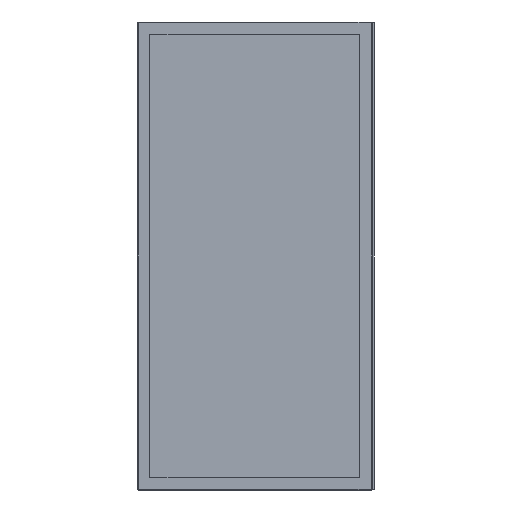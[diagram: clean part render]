
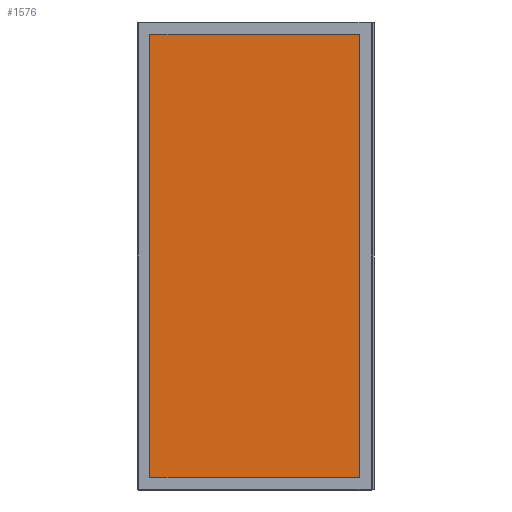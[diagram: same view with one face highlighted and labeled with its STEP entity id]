
A CAD part, front view. The second image highlights one B-rep face of the part: STEP entity #1576.
In plain terms, the highlighted planar face has unit normal (0, -1, 0).
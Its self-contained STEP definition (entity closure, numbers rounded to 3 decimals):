
#1576=ADVANCED_FACE('',(#5995),#5997,.F.);
#5995=FACE_BOUND('',#5996,.T.);
#5996=EDGE_LOOP('',(#8456,#8457,#8458,#8459));
#5997=PLANE('',#5998);
#5998=AXIS2_PLACEMENT_3D('',#5999,#6000,#6001);
#5999=CARTESIAN_POINT('',(0.,0.,0.));
#6000=DIRECTION('',(-0.,1.,0.));
#6001=DIRECTION('',(1.,0.,0.));
#8456=ORIENTED_EDGE('',*,*,#9582,.F.);
#8457=ORIENTED_EDGE('',*,*,#9579,.F.);
#8458=ORIENTED_EDGE('',*,*,#9576,.F.);
#8459=ORIENTED_EDGE('',*,*,#9572,.F.);
#9572=EDGE_CURVE('',#11148,#11149,#11150,.T.);
#9576=EDGE_CURVE('',#11149,#11156,#11157,.T.);
#9579=EDGE_CURVE('',#11156,#11161,#11162,.T.);
#9582=EDGE_CURVE('',#11161,#11148,#11166,.T.);
#11148=VERTEX_POINT('',#15124);
#11149=VERTEX_POINT('',#15125);
#11150=LINE('',#15126,#15127);
#11156=VERTEX_POINT('',#15140);
#11157=LINE('',#15141,#15142);
#11161=VERTEX_POINT('',#15151);
#11162=LINE('',#15152,#15153);
#11166=LINE('',#15162,#15163);
#15124=CARTESIAN_POINT('',(-584.,0.,283.));
#15125=CARTESIAN_POINT('',(584.,0.,283.));
#15126=CARTESIAN_POINT('',(-584.,0.,283.));
#15127=VECTOR('',#15128,1.);
#15128=DIRECTION('',(1.,0.,0.));
#15140=CARTESIAN_POINT('',(584.,0.,-283.));
#15141=CARTESIAN_POINT('',(584.,0.,283.));
#15142=VECTOR('',#15143,1.);
#15143=DIRECTION('',(0.,0.,-1.));
#15151=CARTESIAN_POINT('',(-584.,0.,-283.));
#15152=CARTESIAN_POINT('',(584.,0.,-283.));
#15153=VECTOR('',#15154,1.);
#15154=DIRECTION('',(-1.,0.,0.));
#15162=CARTESIAN_POINT('',(-584.,0.,-283.));
#15163=VECTOR('',#15164,1.);
#15164=DIRECTION('',(0.,0.,1.));
